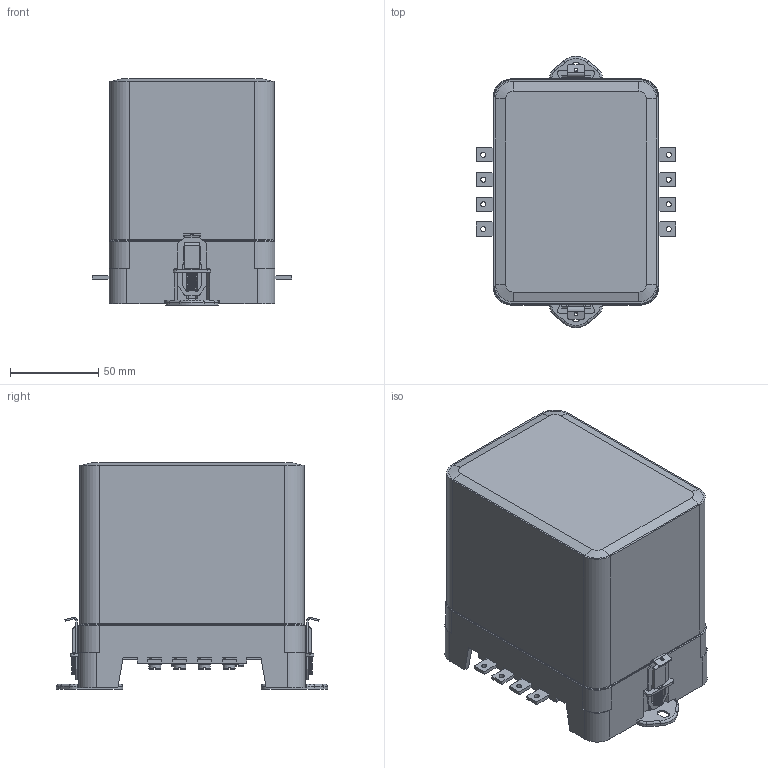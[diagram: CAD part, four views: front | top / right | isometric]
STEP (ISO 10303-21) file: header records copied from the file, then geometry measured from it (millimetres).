
FILE_DESCRIPTION(('STEP AP214'), '1');
FILE_NAME('ÐÂ215Ê, ÐÂ225Ê, ÐÂ235Ê, ÐÂ245Ê ï.ï', '', ('UNSPECIFIED'), ('UNSPECIFIED'), 'ASCON STEP Converter 1.3', 'ASCON Math Kernel', '');
FILE_SCHEMA(('AUTOMOTIVE_DESIGN { 1 0 10303 214 3 1 1}'));
Length unit declared in the file: millimetre
Bounding box: 113 x 153.6 x 128.3 mm (x, y, z)
Volume: 227437.3 mm3; surface area: 161764.3 mm2
Topology: 2 solids, 2 shells, 1325 faces, 3458 edges, 2137 vertices
Faces by surface type: plane 753, cylinder 376, torus 125, cone 35, sphere 30, bspline 6
Full cylindrical faces by diameter (mm): 2 x2, 2.917 x8, 3.3 x8, 3.5 x2, 4 x19, 4.3 x11, 4.5 x5, 5.5 x18, 8 x3
Entity records: 59326 total; most frequent: CARTESIAN_POINT 16422, DIRECTION 6756, ORIENTED_EDGE 6604, EDGE_CURVE 3302, AXIS2_PLACEMENT_3D 2351, VERTEX_POINT 2131, LINE 2054, VECTOR 2054
